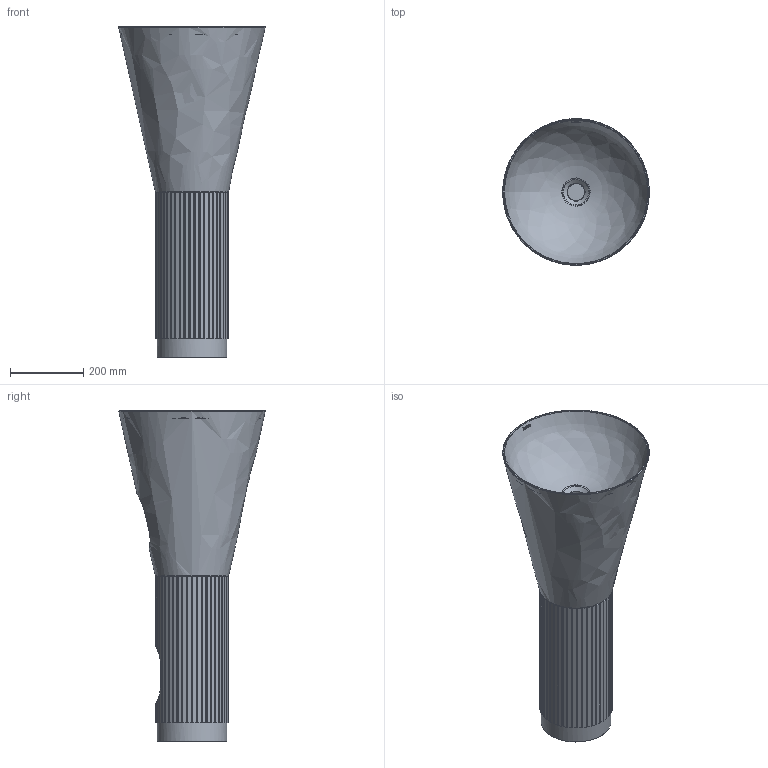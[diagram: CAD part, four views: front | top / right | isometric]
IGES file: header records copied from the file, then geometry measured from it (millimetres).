
Global section: file name: C:\Users\hp\Desktop\8369_8370_8371_8372_8373_8374_Malay\8369_8370_8371_8372_8373_8374_MALAY_PEDESTAL.igs; native system: Rhinoceros ( Mar  7 2025 ); preprocessor: Trout Lake IGES 012 Mar  7 2025; date: 250331.080733; units: millimetre
Bounding box: 399.11 x 399.03 x 900 mm (x, y, z)
Surface area: 1870730.8 mm2 (no closed solid volume)
Topology: 0 solids, 0 shells, 385 faces, 2344 edges, 2302 vertices
Faces by surface type: bspline 385
